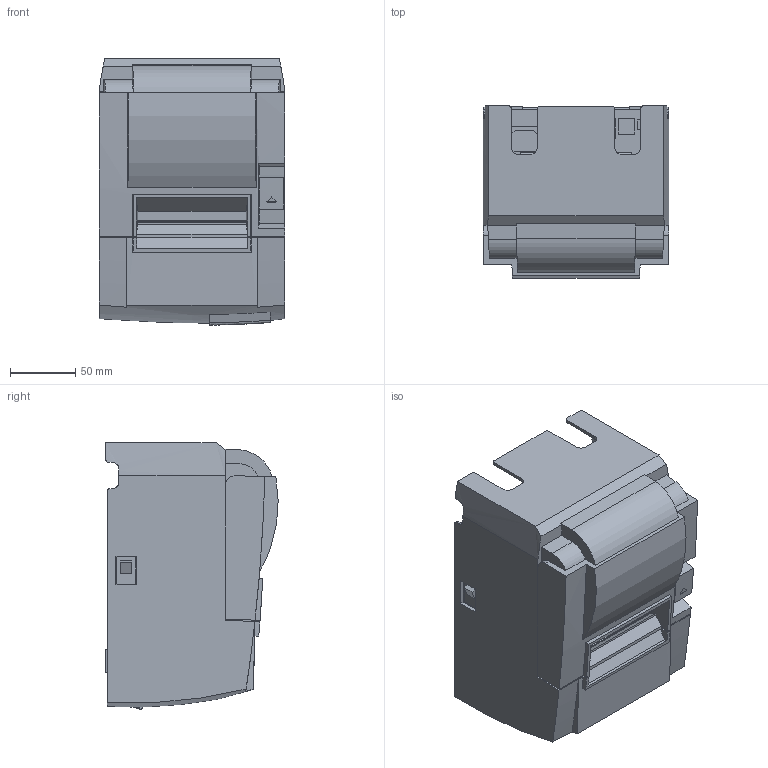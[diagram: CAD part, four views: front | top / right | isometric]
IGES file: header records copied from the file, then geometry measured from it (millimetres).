
Start section: Elysium IGES Interface
Global section: file name: 59HX:\Sales\HP公開用\20190807_TSP100III\TSP100IIIU_3D_data.igs; native system: PTC Creo Elements/Direct Modeling 19.0E  27-Jun-2016; preprocessor: Creo Element/Direct IGES_3D V2.2; author: Unknown; organization: Unknown; date: 20190807.120052; units: millimetre
Bounding box: 142 x 131.69 x 203.56 mm (x, y, z)
Volume: 2816342.9 mm3; surface area: 172633.6 mm2
Topology: 1 solids, 2 shells, 222 faces, 613 edges, 407 vertices
Faces by surface type: bspline 222
